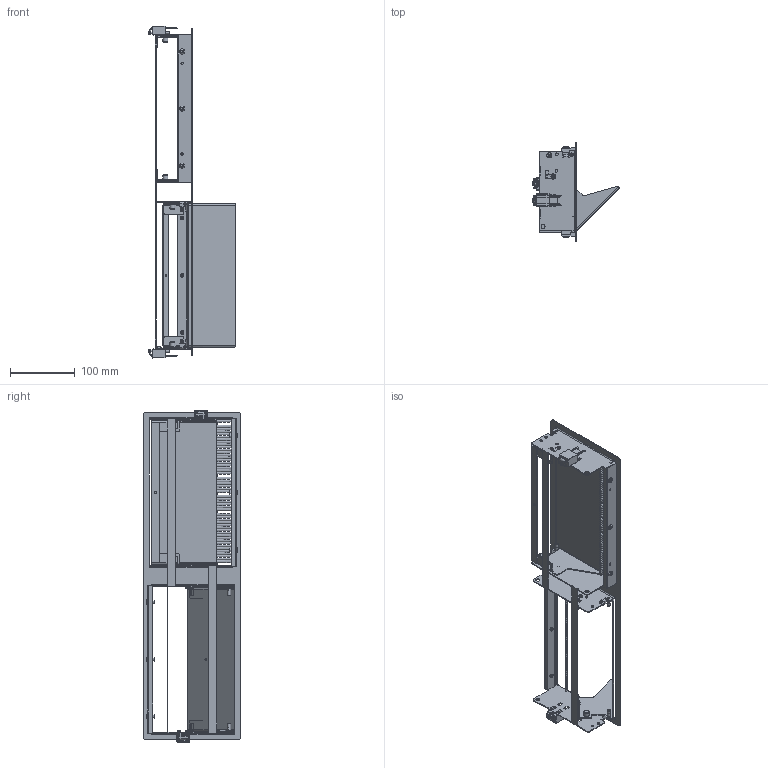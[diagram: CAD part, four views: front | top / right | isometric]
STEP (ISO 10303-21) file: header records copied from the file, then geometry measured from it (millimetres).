
FILE_DESCRIPTION(/* description */ (''),/* implementation_level */ '2;1');
FILE_NAME(/* name */ '911.047.stp',/* time_stamp */ '2025-09-24T16:03:36+02:00',/* author */ ('dorit.hossfeld'),/* organization */ (''),/* preprocessor_version */ 'ST-DEVELOPER v20',/* originating_system */ 'Autodesk Inventor 2025',/* authorisation */ '');
FILE_SCHEMA (('CONFIG_CONTROL_DESIGN'));
Products named in the file (1): Bauteil1
Bounding box: 134.27 x 151 x 511.6 mm (x, y, z)
Volume: 288021.2 mm3; surface area: 323901.1 mm2
Topology: 1 solids, 9 shells, 1696 faces, 4418 edges, 2713 vertices
Faces by surface type: plane 874, cylinder 434, cone 206, torus 122, sphere 46, bspline 14
Full cylindrical faces by diameter (mm): 2.3 x8, 2.5 x6, 2.729 x2, 3 x12, 3.2 x2, 3.5 x8, 4 x14, 4.1 x2, 4.3 x6, 4.5 x12, 5 x4, 5.3 x4, 5.5 x4, 6 x4, 6.3 x4, 8 x8
Entity records: 53467 total; most frequent: CARTESIAN_POINT 11263, DIRECTION 8992, ORIENTED_EDGE 8748, EDGE_CURVE 4374, AXIS2_PLACEMENT_3D 3294, VERTEX_POINT 2708, LINE 2404, VECTOR 2404
